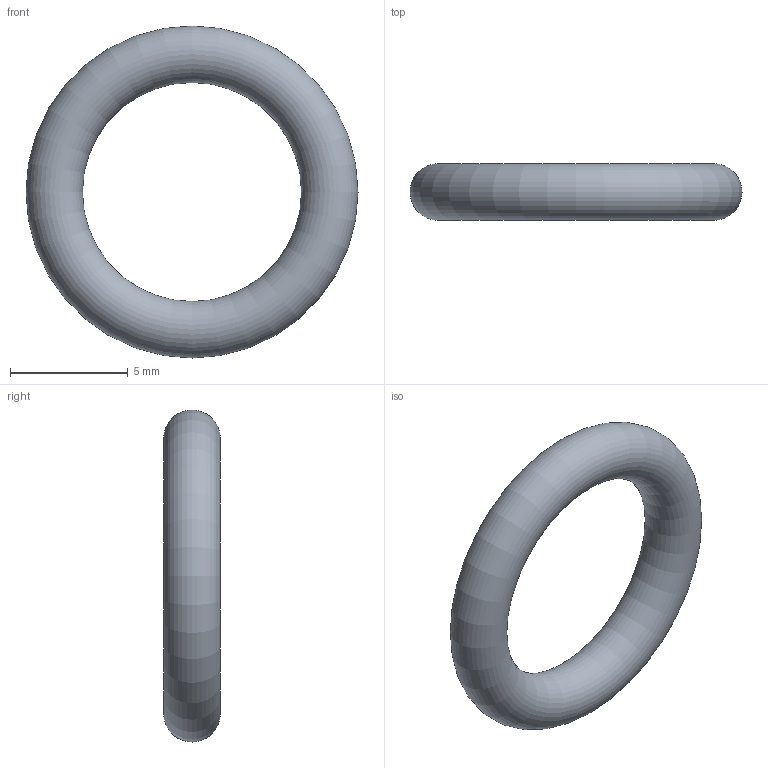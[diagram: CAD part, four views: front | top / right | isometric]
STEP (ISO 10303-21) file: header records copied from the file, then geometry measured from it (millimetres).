
FILE_DESCRIPTION( ( 'STEP AP203' ), '1' );
FILE_NAME( 'C:/Temp/Ganter_Step_05_03_2020/data/3_5/or638/O-Ring OR638-9.30-2.40-70.stp', '2020-03-12T13:44:25', ( 'License CC BY-ND 4.0' ), ( 'CADENAS' ), ' ', 'PARTsolutions', ' ' );
FILE_SCHEMA( ( 'CONFIG_CONTROL_DESIGN' ) );
Length unit declared in the file: millimetre
Products named in the file (1): _O-Ring OR638-9.30-2.40-70
Bounding box: 14.1 x 2.4 x 14.1 mm (x, y, z)
Volume: 166.3 mm3; surface area: 277.1 mm2
Topology: 1 solids, 1 shells, 1 faces, 2 edges, 1 vertices
Faces by surface type: torus 1
Entity records: 62 total; most frequent: CC_DESIGN_PERSON_AND_ORGANIZATION_ASSIGNMENT 5, PERSON_AND_ORGANIZATION_ROLE 4, DIRECTION 4, CARTESIAN_POINT 3, DATE_TIME_ROLE 2, CC_DESIGN_DATE_AND_TIME_ASSIGNMENT 2, AXIS2_PLACEMENT_3D 2, DIMENSIONAL_EXPONENTS 2
